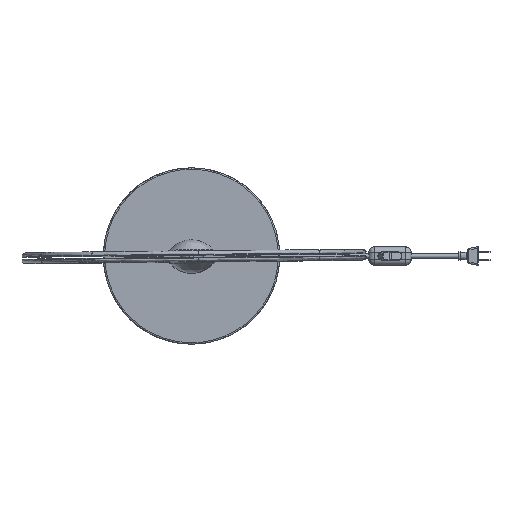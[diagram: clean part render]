
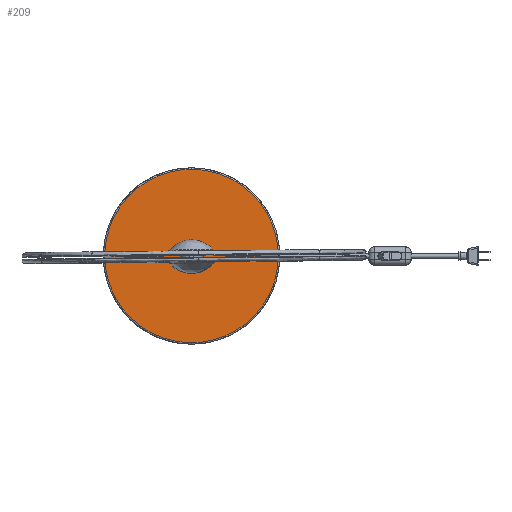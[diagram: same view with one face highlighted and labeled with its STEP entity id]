
A CAD part, top view. The second image highlights one B-rep face of the part: STEP entity #209.
In plain terms, the highlighted planar face has unit normal (0, 0, 1).
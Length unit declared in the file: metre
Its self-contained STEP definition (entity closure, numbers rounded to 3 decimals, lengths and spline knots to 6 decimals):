
#209=ADVANCED_FACE('',(#752),#8415,.T.);
#752=FACE_OUTER_BOUND('',#1306,.T.);
#1306=EDGE_LOOP('',(#2402,#2403));
#2402=ORIENTED_EDGE('',*,*,#4920,.F.);
#2403=ORIENTED_EDGE('',*,*,#4909,.F.);
#4909=EDGE_CURVE('',#7623,#7622,#7240,.T.);
#4920=EDGE_CURVE('',#7622,#7623,#7249,.T.);
#7240=(
BOUNDED_CURVE()
B_SPLINE_CURVE(2,(#13684,#13685,#13686,#13687,#13688),.UNSPECIFIED.,.F.,
 .F.)
B_SPLINE_CURVE_WITH_KNOTS((3,2,3),(193.207948,386.415896,579.623845),
 .UNSPECIFIED.)
CURVE()
GEOMETRIC_REPRESENTATION_ITEM()
RATIONAL_B_SPLINE_CURVE((1.,0.707,1.,0.707,1.))
REPRESENTATION_ITEM('')
);
#7249=(
BOUNDED_CURVE()
B_SPLINE_CURVE(2,(#13723,#13724,#13725,#13726,#13727),.UNSPECIFIED.,.F.,
 .F.)
B_SPLINE_CURVE_WITH_KNOTS((3,2,3),(0.,193.207948,386.415896),
 .UNSPECIFIED.)
CURVE()
GEOMETRIC_REPRESENTATION_ITEM()
RATIONAL_B_SPLINE_CURVE((1.,0.707,1.,0.707,1.))
REPRESENTATION_ITEM('')
);
#7622=VERTEX_POINT('',#13665);
#7623=VERTEX_POINT('',#13666);
#8415=PLANE('',#8930);
#8930=AXIS2_PLACEMENT_3D('',#13303,#9240,$);
#9240=DIRECTION('',(0.,0.,1.));
#13303=CARTESIAN_POINT('',(-149.92382,-150.436721,18.493365));
#13665=CARTESIAN_POINT('',(0.00502,-123.507881,18.493365));
#13666=CARTESIAN_POINT('',(0.00502,122.492119,18.493365));
#13684=CARTESIAN_POINT('',(0.00502,122.492119,18.493365));
#13685=CARTESIAN_POINT('',(123.00502,122.492119,18.493365));
#13686=CARTESIAN_POINT('',(123.00502,-0.507881,18.493365));
#13687=CARTESIAN_POINT('',(123.00502,-123.507881,18.493365));
#13688=CARTESIAN_POINT('',(0.00502,-123.507881,18.493365));
#13723=CARTESIAN_POINT('',(0.00502,-123.507881,18.493365));
#13724=CARTESIAN_POINT('',(-122.99498,-123.507881,18.493365));
#13725=CARTESIAN_POINT('',(-122.99498,-0.507881,18.493365));
#13726=CARTESIAN_POINT('',(-122.99498,122.492119,18.493365));
#13727=CARTESIAN_POINT('',(0.00502,122.492119,18.493365));
